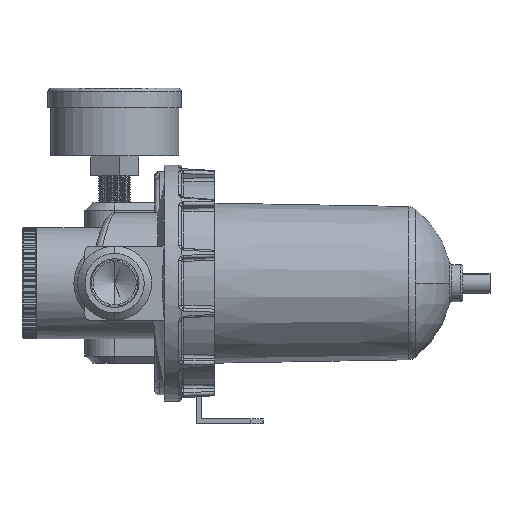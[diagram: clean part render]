
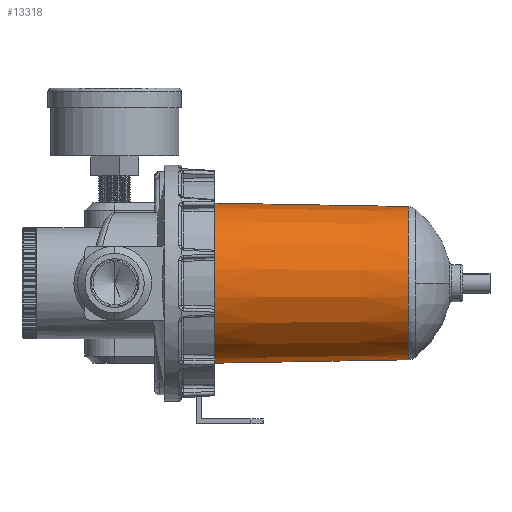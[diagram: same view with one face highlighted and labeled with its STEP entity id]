
A CAD part, left-side view. The second image highlights one B-rep face of the part: STEP entity #13318.
In plain terms, the highlighted conical face has half-angle 1 degrees and reference radius 31 mm.
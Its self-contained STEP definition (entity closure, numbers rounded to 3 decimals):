
#471 = EDGE_CURVE ( 'NONE', #15022, #37945, #33305, .T. ) ;
#1759 = LINE ( 'NONE', #32849, #37147 ) ;
#2981 = VERTEX_POINT ( 'NONE', #10780 ) ;
#3378 = ORIENTED_EDGE ( 'NONE', *, *, #471, .T. ) ;
#5422 = CARTESIAN_POINT ( 'NONE',  ( 0., 0., 31. ) ) ;
#5911 = AXIS2_PLACEMENT_3D ( 'NONE', #6580, #6283, #30287 ) ;
#6283 = DIRECTION ( 'NONE',  ( 0., 1., 0. ) ) ;
#6580 = CARTESIAN_POINT ( 'NONE',  ( 0., 80., 0. ) ) ;
#7960 = ORIENTED_EDGE ( 'NONE', *, *, #30940, .T. ) ;
#8889 = DIRECTION ( 'NONE',  ( 0., 1., 0.017 ) ) ;
#10780 = CARTESIAN_POINT ( 'NONE',  ( 0., 1.608, -31.028 ) ) ;
#11871 = CARTESIAN_POINT ( 'NONE',  ( 0., 80., 32.396 ) ) ;
#12007 = CONICAL_SURFACE ( 'NONE', #13025, 31., 0.017 ) ;
#13025 = AXIS2_PLACEMENT_3D ( 'NONE', #25664, #22511, #25947 ) ;
#13318 = ADVANCED_FACE ( 'NONE', ( #41433 ), #12007, .T. ) ;
#15022 = VERTEX_POINT ( 'NONE', #42379 ) ;
#17711 = ORIENTED_EDGE ( 'NONE', *, *, #26382, .F. ) ;
#17733 = VERTEX_POINT ( 'NONE', #29061 ) ;
#19296 = DIRECTION ( 'NONE',  ( 0., 1., 0. ) ) ;
#21952 = ORIENTED_EDGE ( 'NONE', *, *, #32882, .F. ) ;
#22511 = DIRECTION ( 'NONE',  ( 0., 1., 0. ) ) ;
#25664 = CARTESIAN_POINT ( 'NONE',  ( 0., 0., 0. ) ) ;
#25947 = DIRECTION ( 'NONE',  ( 0., 0., 1. ) ) ;
#26382 = EDGE_CURVE ( 'NONE', #17733, #37945, #41458, .T. ) ;
#29061 = CARTESIAN_POINT ( 'NONE',  ( 0., 80., -32.396 ) ) ;
#30287 = DIRECTION ( 'NONE',  ( 0., 0., 1. ) ) ;
#30674 = EDGE_LOOP ( 'NONE', ( #21952, #7960, #3378, #17711 ) ) ;
#30940 = EDGE_CURVE ( 'NONE', #2981, #15022, #40964, .T. ) ;
#32849 = CARTESIAN_POINT ( 'NONE',  ( 0., 0., -31. ) ) ;
#32882 = EDGE_CURVE ( 'NONE', #2981, #17733, #1759, .T. ) ;
#33305 = LINE ( 'NONE', #5422, #39190 ) ;
#35968 = DIRECTION ( 'NONE',  ( 0., 0., -1. ) ) ;
#36438 = AXIS2_PLACEMENT_3D ( 'NONE', #42922, #19296, #35968 ) ;
#37147 = VECTOR ( 'NONE', #39702, 1000. ) ;
#37945 = VERTEX_POINT ( 'NONE', #11871 ) ;
#39190 = VECTOR ( 'NONE', #8889, 1000. ) ;
#39702 = DIRECTION ( 'NONE',  ( 0., 1., -0.017 ) ) ;
#40964 = CIRCLE ( 'NONE', #36438, 31.028 ) ;
#41433 = FACE_OUTER_BOUND ( 'NONE', #30674, .T. ) ;
#41458 = CIRCLE ( 'NONE', #5911, 32.396 ) ;
#42379 = CARTESIAN_POINT ( 'NONE',  ( 0., 1.608, 31.028 ) ) ;
#42922 = CARTESIAN_POINT ( 'NONE',  ( 0., 1.608, 0. ) ) ;
